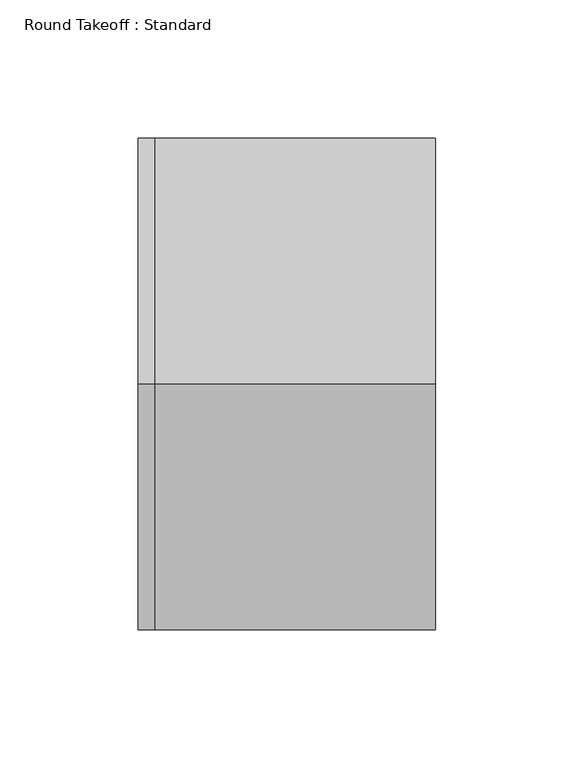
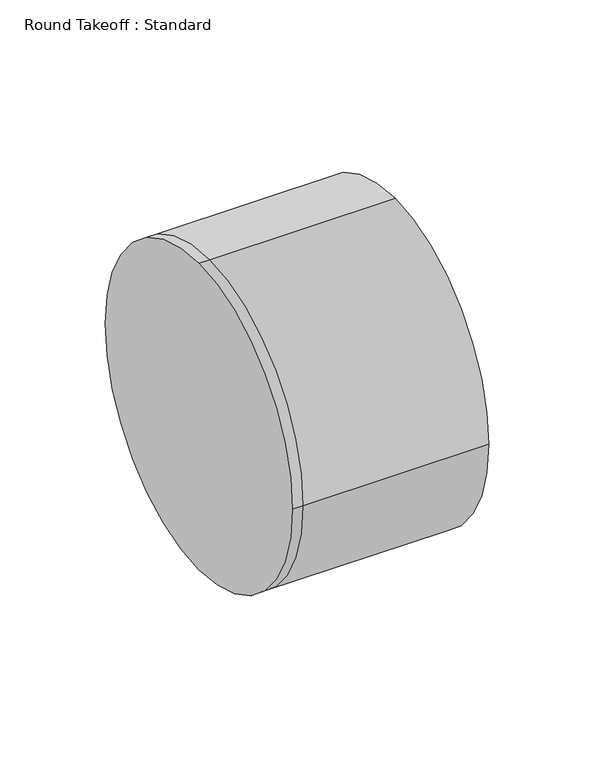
"""IFC4 building model written with IfcOpenShell, lengths in millimetres: duct fitting geometry, Round Takeoff : Standard."""

from ifc_helpers import new_model, si_unit, frame, origin, place, context, project, spatial, circle_curve, source, transform, mapped, element, save
from ifc_brep_helpers import plane_surface, cylinder_surface, advanced_brep


def round_takeoff_standard_f7421198(model_context):
    return source(origin(), model_context, "Body", "AdvancedBrep", [
        advanced_brep(
        [(101.6, 0.0, 88.9), (101.6, -88.9, 0.0), (101.6, 0.0, -88.9), (101.6, 88.9, 0.0), (0.0, 88.9, 0.0), (0.0, 0.0, 88.9), (0.0, 0.0, -88.9), (0.0, -88.9, 0.0), (-6.096, 0.0, 88.9), (-6.096, 88.9, 0.0), (-6.096, 0.0, -88.9), (-6.096, -88.9, 0.0)],
        [
            (0, 1, circle_curve(frame((101.6, 0.0, 0.0), z_axis=(1.0, 0.0, 0.0), x_axis=(0.0, 1.0, 0.0)), 88.9)),
            (1, 2, circle_curve(frame((101.6, 0.0, 0.0), z_axis=(1.0, 0.0, 0.0), x_axis=(0.0, 1.0, 0.0)), 88.9)),
            (2, 3, circle_curve(frame((101.6, 0.0, 0.0), z_axis=(1.0, 0.0, 0.0), x_axis=(0.0, 1.0, 0.0)), 88.9)),
            (3, 0, circle_curve(frame((101.6, 0.0, 0.0), z_axis=(1.0, 0.0, 0.0), x_axis=(0.0, 1.0, 0.0)), 88.9)),
            (3, 4),
            (4, 5, circle_curve(frame((0.0, 0.0, 0.0), z_axis=(1.0, 0.0, 0.0), x_axis=(0.0, 1.0, 0.0)), 88.9)),
            (5, 0),
            (2, 6),
            (6, 4, circle_curve(frame((0.0, 0.0, 0.0), z_axis=(1.0, 0.0, 0.0), x_axis=(0.0, 1.0, 0.0)), 88.9)),
            (1, 7),
            (7, 6, circle_curve(frame((0.0, 0.0, 0.0), z_axis=(1.0, 0.0, 0.0), x_axis=(0.0, 1.0, 0.0)), 88.9)),
            (5, 7, circle_curve(frame((0.0, 0.0, 0.0), z_axis=(1.0, 0.0, 0.0), x_axis=(0.0, 1.0, 0.0)), 88.9)),
            (8, 9, circle_curve(frame((-6.096, 0.0, 0.0), z_axis=(-1.0, 0.0, 0.0), x_axis=(0.0, 1.0, 0.0)), 88.9)),
            (9, 10, circle_curve(frame((-6.096, 0.0, 0.0), z_axis=(-1.0, 0.0, 0.0), x_axis=(0.0, 1.0, 0.0)), 88.9)),
            (10, 11, circle_curve(frame((-6.096, 0.0, 0.0), z_axis=(-1.0, 0.0, 0.0), x_axis=(0.0, 1.0, 0.0)), 88.9)),
            (11, 8, circle_curve(frame((-6.096, 0.0, 0.0), z_axis=(-1.0, 0.0, 0.0), x_axis=(0.0, 1.0, 0.0)), 88.9)),
            (8, 5),
            (4, 9),
            (6, 10),
            (7, 11),
        ],
        [
            plane_surface(frame((101.6, 0.0, 0.0), z_axis=(1.0, 0.0, 0.0), x_axis=(0.0, 0.0, 1.0))),
            cylinder_surface(frame((0.0, 0.0, 0.0), z_axis=(-1.0, 0.0, 0.0), x_axis=(0.0, 1.0, 0.0)), 88.9),
            plane_surface(frame((-6.096, 0.0, 0.0), z_axis=(-1.0, 0.0, 0.0), x_axis=(0.0, 0.0, 1.0))),
            cylinder_surface(frame((-6.096, 0.0, 0.0), z_axis=(-1.0, 0.0, 0.0), x_axis=(0.0, 1.0, 0.0)), 88.9),
        ],
        [
            (0, [[1, 2, 3, 4]]),
            (1, [[-4, 5, 6, 7]]),
            (1, [[-3, 8, 9, -5]]),
            (1, [[-2, 10, 11, -8]]),
            (1, [[-1, -7, 12, -10]]),
            (2, [[13, 14, 15, 16]]),
            (3, [[-13, 17, -6, 18]]),
            (3, [[-14, -18, -9, 19]]),
            (3, [[-15, -19, -11, 20]]),
            (3, [[-16, -20, -12, -17]]),
        ],
    ),
    ])


if __name__ == "__main__":
    model = new_model("IFC4")
    model_context = context("Model", 3, world=origin())
    ifc_project = project(units=[si_unit("LENGTHUNIT", "METRE", prefix="MILLI")], contexts=[model_context])
    site = spatial("IfcSite", under=ifc_project)
    building = spatial("IfcBuilding", under=site)
    placement = place(None, origin())
    round_takeoff_standard_shape = round_takeoff_standard_f7421198(model_context)
    element("IfcDuctFitting", 1, ObjectType="Round Takeoff : Standard", at=placement, inside=building, context=model_context, shape_type="MappedRepresentation", body=[
        mapped(round_takeoff_standard_shape, transform((0.0, 0.0, 0.0), x_axis=(1.0, 0.0, 0.0), y_axis=(0.0, 1.0, 0.0), z_axis=(0.0, 0.0, 1.0))),
    ])
    save(model, "model.ifc")
